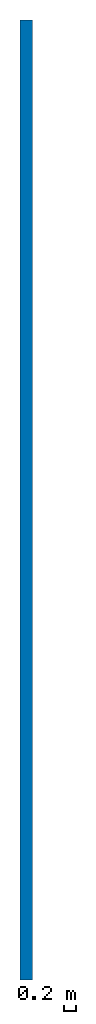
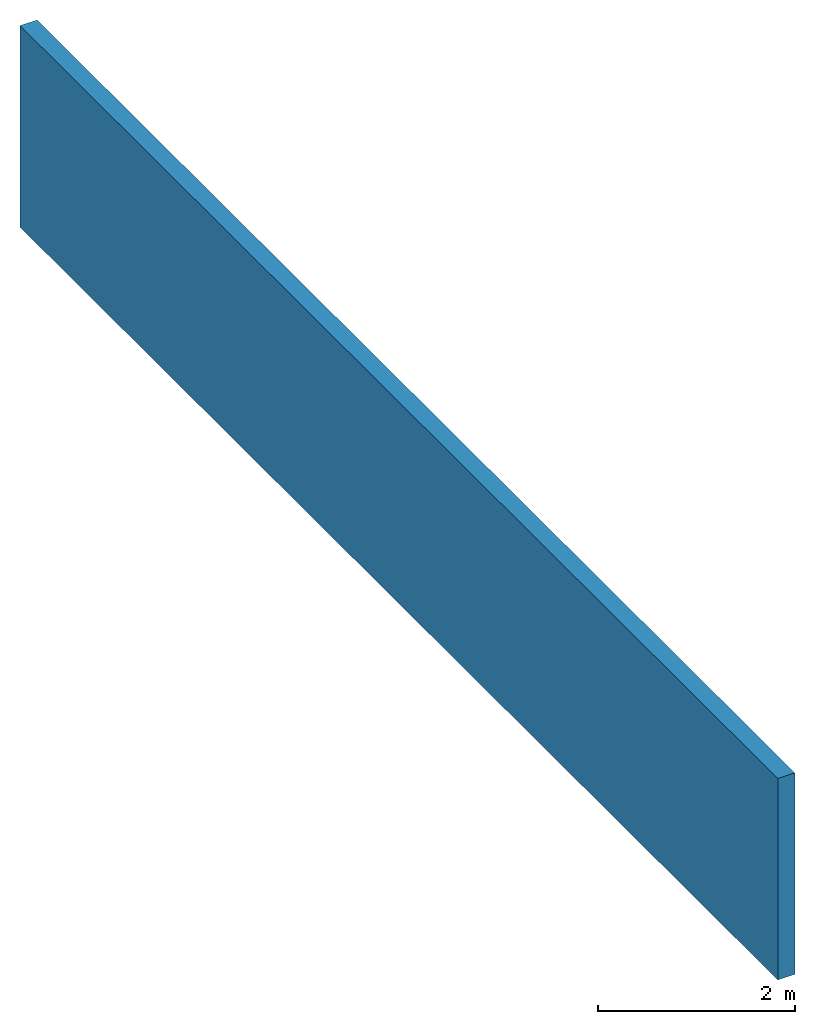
# One storey: 1 wall.
"""IFC2X3 building model written with IfcOpenShell, lengths in metres."""

from ifc_helpers import new_model, entity, si_unit, converted_unit, derived_unit, direction, frame, frame_2d, origin, place, context, subcontext, project, spatial, rectangle, extrude, material, layer, layer_set, layer_usage, type_object, element, save


model = new_model("IFC2X3")

# Units and contexts
model_context = context("Model", 3, precision=1e-05, world=origin(), true_north=direction((6.12303176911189e-17, 1.0)))
body_context = subcontext(model_context, "Body", "Model", "MODEL_VIEW")
ifc_project = project(units=[si_unit("LENGTHUNIT", "METRE"), si_unit("AREAUNIT", "SQUARE_METRE"), si_unit("VOLUMEUNIT", "CUBIC_METRE"), converted_unit("PLANEANGLEUNIT", "DEGREE", entity("IfcRatioMeasure", 0.0174532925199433), si_unit("PLANEANGLEUNIT", "RADIAN"), dimensions=[0, 0, 0, 0, 0, 0, 0]), si_unit("MASSUNIT", "GRAM", prefix="KILO"), derived_unit("MASSDENSITYUNIT", [(si_unit("MASSUNIT", "GRAM", prefix="KILO"), 1), (si_unit("LENGTHUNIT", "METRE"), -3)]), derived_unit("MOMENTOFINERTIAUNIT", [(si_unit("LENGTHUNIT", "METRE"), 4)]), si_unit("TIMEUNIT", "SECOND"), si_unit("FREQUENCYUNIT", "HERTZ"), si_unit("THERMODYNAMICTEMPERATUREUNIT", "DEGREE_CELSIUS"), derived_unit("THERMALTRANSMITTANCEUNIT", [(si_unit("MASSUNIT", "GRAM", prefix="KILO"), 1), (si_unit("THERMODYNAMICTEMPERATUREUNIT", "KELVIN"), -1), (si_unit("TIMEUNIT", "SECOND"), -3)]), derived_unit("VOLUMETRICFLOWRATEUNIT", [(si_unit("LENGTHUNIT", "METRE"), 3), (si_unit("TIMEUNIT", "SECOND"), -1)]), si_unit("ELECTRICCURRENTUNIT", "AMPERE"), si_unit("ELECTRICVOLTAGEUNIT", "VOLT"), si_unit("POWERUNIT", "WATT"), si_unit("FORCEUNIT", "NEWTON", prefix="KILO"), si_unit("ILLUMINANCEUNIT", "LUX"), si_unit("LUMINOUSFLUXUNIT", "LUMEN"), si_unit("LUMINOUSINTENSITYUNIT", "CANDELA"), derived_unit("USERDEFINED", [(si_unit("MASSUNIT", "GRAM", prefix="KILO"), -1), (si_unit("LENGTHUNIT", "METRE"), -2), (si_unit("TIMEUNIT", "SECOND"), 3), (si_unit("LUMINOUSFLUXUNIT", "LUMEN"), 1)]), derived_unit("LINEARVELOCITYUNIT", [(si_unit("LENGTHUNIT", "METRE"), 1), (si_unit("TIMEUNIT", "SECOND"), -1)]), si_unit("PRESSUREUNIT", "PASCAL"), derived_unit("USERDEFINED", [(si_unit("LENGTHUNIT", "METRE"), -2), (si_unit("MASSUNIT", "GRAM", prefix="KILO"), 1), (si_unit("TIMEUNIT", "SECOND"), -2)]), derived_unit("LINEARFORCEUNIT", [(si_unit("MASSUNIT", "GRAM", prefix="KILO"), 1), (si_unit("LENGTHUNIT", "METRE"), 1), (si_unit("TIMEUNIT", "SECOND"), -2), (si_unit("LENGTHUNIT", "METRE"), -1)]), derived_unit("PLANARFORCEUNIT", [(si_unit("MASSUNIT", "GRAM", prefix="KILO"), 1), (si_unit("LENGTHUNIT", "METRE"), 1), (si_unit("TIMEUNIT", "SECOND"), -2), (si_unit("LENGTHUNIT", "METRE"), -2)])], contexts=[model_context])

# Site, building, storey
site_placement = place(None, frame((0.0, 0.0, 57.0)))
site = spatial("IfcSite", under=ifc_project, at=site_placement, Name="Default", CompositionType="ELEMENT")
building_placement = place(site_placement, origin())
building = spatial("IfcBuilding", under=site, at=building_placement, CompositionType="ELEMENT")
storey_placement = place(building_placement, frame((0.0, 0.0, 7.0)))
storey = spatial("IfcBuildingStorey", under=building, at=storey_placement, Name="Level 2", CompositionType="ELEMENT", Elevation=6.99999999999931)

# Wall
ifc_material = material(Name="Default Wall")
ifc_layer = layer(ifc_material, 0.2)
ifc_layer_set = layer_set([ifc_layer], Name="Basic Wall:Generic - 200mm")
ifc_layer_usage = layer_usage(ifc_layer_set, "AXIS2", "NEGATIVE", 0.1)
wall_type = type_object("IfcWallType", Name="Basic Wall:Generic - 200mm", PredefinedType="STANDARD", material=ifc_layer_set)
wall_placement = place(storey_placement, frame((10.0200731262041, 12.4893022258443, 0.0), z_axis=(0.0, 0.0, 1.0), x_axis=(0.0, -1.0, 0.0)))
element("IfcWallStandardCase", 1, at=wall_placement, inside=storey, type_object=wall_type, material=ifc_layer_usage, Name="Basic Wall:Generic - 200mm", ObjectType="Basic Wall:Generic - 200mm", context=body_context, shape_type="SweptSolid", body=[
    extrude(rectangle(XDim=15.4, YDim=0.200000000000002, at=frame_2d((7.7, 7.0082828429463e-16), x_axis=(-1.0, 0.0))), origin(), (0.0, 0.0, 1.0), 2.50000000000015),
])

save(model, "model.ifc")
